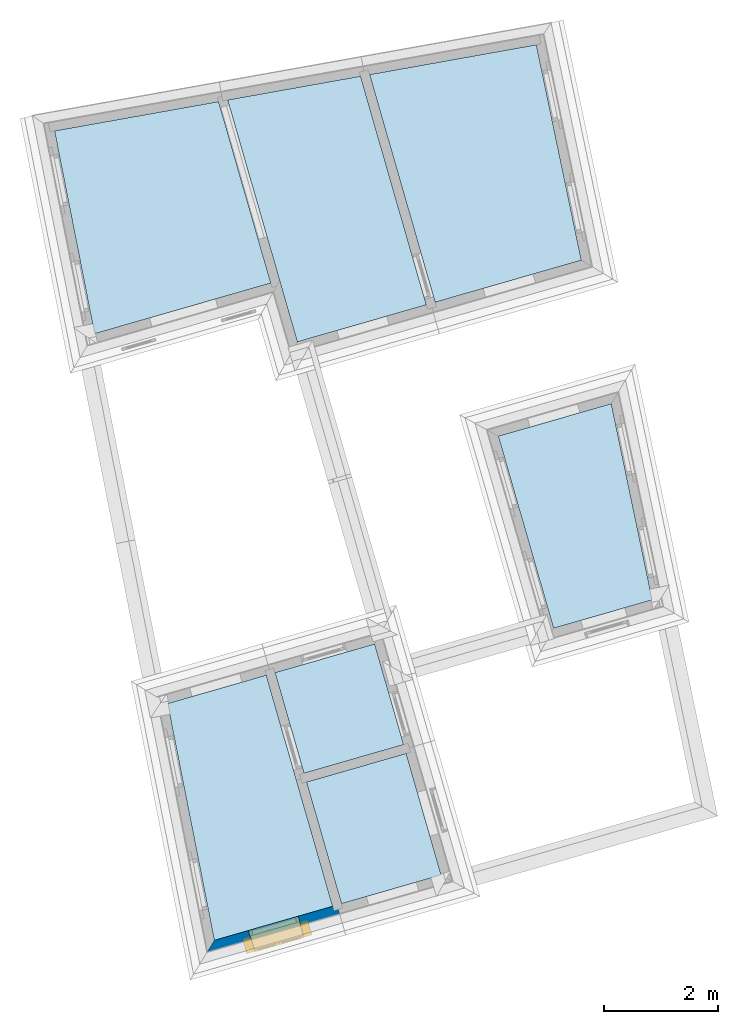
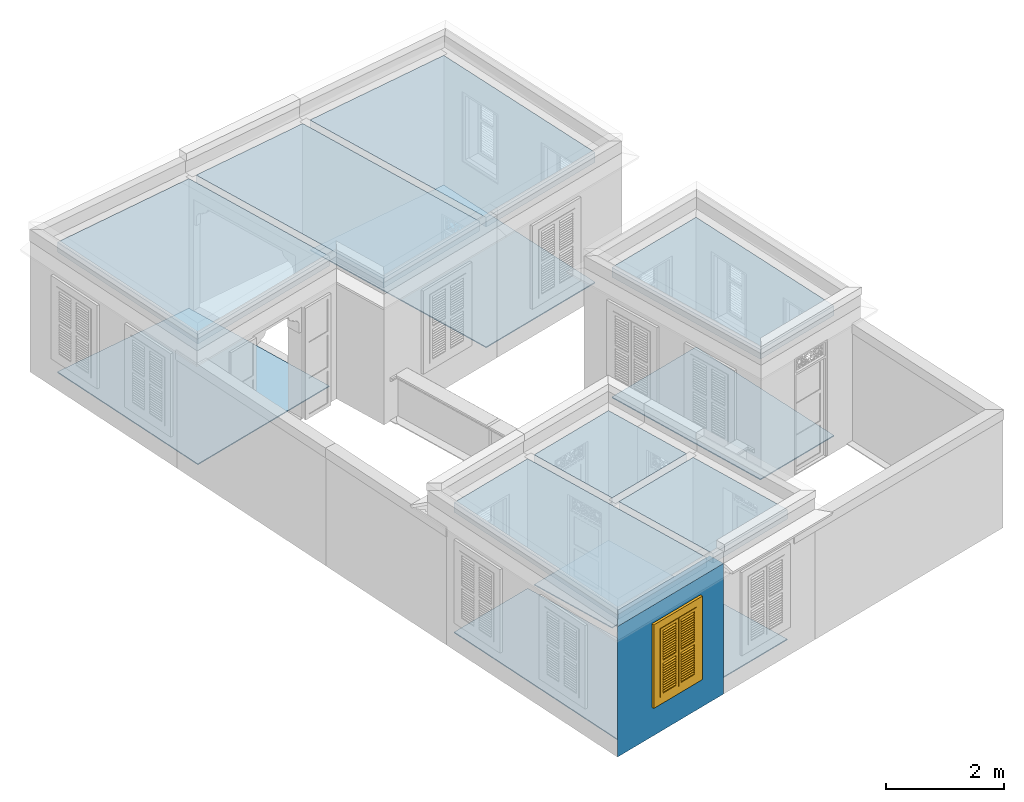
# One storey, part 1 of 22: 13 slabs, 1 wall, 1 window, 1 opening.
"""IFC4 building model written with IfcOpenShell, lengths in metres."""

from ifc_helpers import new_model, si_unit, frame, origin, origin_with_axes, place, context, subcontext, project, spatial, polyline, outline, extrude, faceted_brep, source, transform, mapped, material, layer, layer_set, layer_usage, type_object, type_shapes, element, fill, save


model = new_model("IFC4")

# Units and contexts
model_context = context("Model", 3, world=origin_with_axes())
body_context = subcontext(model_context, "Body", "Model", "MODEL_VIEW")
ifc_project = project(units=[si_unit("PLANEANGLEUNIT", "RADIAN"), si_unit("MASSUNIT", "GRAM", prefix="KILO"), si_unit("FORCEUNIT", "NEWTON", prefix="KILO"), si_unit("LENGTHUNIT", "METRE"), si_unit("AREAUNIT", "SQUARE_METRE"), si_unit("VOLUMEUNIT", "CUBIC_METRE")], contexts=[model_context, model_context])

# Site, building, storey
site_placement = place(None, origin_with_axes())
site = spatial("IfcSite", under=ifc_project, at=site_placement, Name="Site plot-9", CompositionType="ELEMENT")
building_placement = place(None, origin_with_axes())
building = spatial("IfcBuilding", under=site, at=building_placement, Name="Building plot-9", CompositionType="ELEMENT")
storey_placement = place(None, frame((0.0, 0.0, 2.85), z_axis=(0.0, 0.0, 1.0), x_axis=(1.0, 0.0, 0.0)))
storey = spatial("IfcBuildingStorey", under=building, at=storey_placement, Name="plot-9 1", CompositionType="ELEMENT", Elevation=2.85)

# Slabs
slab_1_placement = place(storey_placement, frame((-20.161712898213, -6.68409623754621, 2.5)))
element("IfcSlab", 1, at=slab_1_placement, inside=storey, Name="My Slab", ObjectType="Slab", PredefinedType="FLOOR", context=body_context, shape_type="SweptSolid", body=[
    extrude(outline(polyline([(0.0, 0.0), (2.07081325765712, 0.595861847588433), (0.908731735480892, 4.63849602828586), (-0.817634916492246, 4.14174625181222), (0.0, 0.0)])), origin_with_axes(), (0.0, 0.0, 1.0), 0.2),
])
slab_2_placement = place(storey_placement, frame((-20.161712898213, -6.68409623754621, 0.0)))
element("IfcSlab", 2, at=slab_2_placement, inside=storey, Name="My Slab", ObjectType="Slab", PredefinedType="FLOOR", context=body_context, shape_type="SweptSolid", body=[
    extrude(outline(polyline([(0.0, 0.0), (2.07081325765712, 0.595861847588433), (0.908731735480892, 4.63849602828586), (-0.817634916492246, 4.14174625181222), (0.0, 0.0)])), origin_with_axes(), (0.0, 0.0, 1.0), 0.02),
])
slab_3_placement = place(storey_placement, frame((-18.5929798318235, -3.76245824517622, 2.5)))
element("IfcSlab", 3, at=slab_3_placement, inside=storey, Name="My Slab", ObjectType="Slab", PredefinedType="FLOOR", context=body_context, shape_type="SweptSolid", body=[
    extrude(outline(polyline([(0.0, 0.0), (1.74305043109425, 0.501550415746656), (1.23634445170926, 2.26251810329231), (-0.506240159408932, 1.7611017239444), (0.0, 0.0)])), origin_with_axes(), (0.0, 0.0, 1.0), 0.2),
])
slab_4_placement = place(storey_placement, frame((-18.5929798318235, -3.76245824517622, 0.0)))
element("IfcSlab", 4, at=slab_4_placement, inside=storey, Name="My Slab", ObjectType="Slab", PredefinedType="FLOOR", context=body_context, shape_type="SweptSolid", body=[
    extrude(outline(polyline([(0.0, 0.0), (1.74305043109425, 0.501550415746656), (1.23634445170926, 2.26251810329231), (-0.506240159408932, 1.7611017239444), (0.0, 0.0)])), origin_with_axes(), (0.0, 0.0, 1.0), 0.02),
])
slab_5_placement = place(storey_placement, frame((-13.2171707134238, 2.70372651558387, 2.5)))
element("IfcSlab", 5, at=slab_5_placement, inside=storey, Name="My Slab", ObjectType="Slab", PredefinedType="FLOOR", context=body_context, shape_type="SweptSolid", body=[
    extrude(outline(polyline([(0.0, 0.0), (-1.97686501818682, -0.568828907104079), (-1.00984457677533, -3.92953870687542), (0.716715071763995, -3.43273339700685), (0.0, 0.0)])), origin_with_axes(), (0.0, 0.0, 1.0), 0.2),
])
slab_6_placement = place(storey_placement, frame((-13.2171707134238, 2.70372651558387, 0.0)))
element("IfcSlab", 6, at=slab_6_placement, inside=storey, Name="My Slab", ObjectType="Slab", PredefinedType="FLOOR", context=body_context, shape_type="SweptSolid", body=[
    extrude(outline(polyline([(0.0, 0.0), (-1.97686501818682, -0.568828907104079), (-1.00984457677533, -3.92953870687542), (0.716715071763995, -3.43273339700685), (0.0, 0.0)])), origin_with_axes(), (0.0, 0.0, 1.0), 0.02),
])
slab_7_placement = place(storey_placement, frame((-14.5279245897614, 8.98163078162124, 2.5)))
element("IfcSlab", 7, at=slab_7_placement, inside=storey, Name="My Slab", ObjectType="Slab", PredefinedType="FLOOR", context=body_context, shape_type="SweptSolid", body=[
    extrude(outline(polyline([(0.0, 0.0), (-2.91770092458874, -0.521597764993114), (-1.77141169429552, -4.50532477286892), (0.786959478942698, -3.76917158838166), (0.0, 0.0)])), origin_with_axes(), (0.0, 0.0, 1.0), 0.2),
])
slab_8_placement = place(storey_placement, frame((-14.5279245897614, 8.98163078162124, 0.0)))
element("IfcSlab", 8, at=slab_8_placement, inside=storey, Name="My Slab", ObjectType="Slab", PredefinedType="FLOOR", context=body_context, shape_type="SweptSolid", body=[
    extrude(outline(polyline([(0.0, 0.0), (-2.91770092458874, -0.521597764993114), (-1.77141169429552, -4.50532477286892), (0.786959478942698, -3.76917158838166), (0.0, 0.0)])), origin_with_axes(), (0.0, 0.0, 1.0), 0.02),
])
slab_9_placement = place(storey_placement, frame((-17.6039721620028, 8.43172536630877, 2.5)))
element("IfcSlab", 9, at=slab_9_placement, inside=storey, Name="My Slab", ObjectType="Slab", PredefinedType="FLOOR", context=body_context, shape_type="SweptSolid", body=[
    extrude(outline(polyline([(0.0, 0.0), (-2.32437231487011, -0.415528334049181), (-1.10618726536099, -4.64911664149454), (1.15087471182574, -3.99966304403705), (0.0, 0.0)])), origin_with_axes(), (0.0, 0.0, 1.0), 0.2),
])
slab_10_placement = place(storey_placement, frame((-22.9568620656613, 7.47478855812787, 2.5)))
element("IfcSlab", 10, at=slab_10_placement, inside=storey, Name="My Slab", ObjectType="Slab", PredefinedType="FLOOR", context=body_context, shape_type="SweptSolid", body=[
    extrude(outline(polyline([(0.0, 0.0), (0.700565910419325, -3.54873082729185), (3.78391934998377, -2.66247137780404), (2.87017094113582, 0.513100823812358), (0.0, 0.0)])), origin_with_axes(), (0.0, 0.0, 1.0), 0.2),
])
slab_11_placement = place(storey_placement, frame((-22.9568620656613, 7.47478855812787, 0.0)))
element("IfcSlab", 11, at=slab_11_placement, inside=storey, Name="My Slab", ObjectType="Slab", PredefinedType="FLOOR", context=body_context, shape_type="SweptSolid", body=[
    extrude(outline(polyline([(0.0, 0.0), (0.700565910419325, -3.54873082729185), (3.78391934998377, -2.66247137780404), (2.87017094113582, 0.513100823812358), (0.0, 0.0)])), origin_with_axes(), (0.0, 0.0, 1.0), 0.02),
])
slab_12_placement = place(storey_placement, frame((-18.5487768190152, -3.91623111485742, 2.5)))
element("IfcSlab", 12, at=slab_12_placement, inside=storey, Name="My Slab", ObjectType="Slab", PredefinedType="FLOOR", context=body_context, shape_type="SweptSolid", body=[
    extrude(outline(polyline([(0.0, 0.0), (0.611638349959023, -2.12775958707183), (2.35529225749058, -1.62603552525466), (1.74309110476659, 0.50156211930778), (0.0, 0.0)])), origin_with_axes(), (0.0, 0.0, 1.0), 0.2),
])
slab_13_placement = place(storey_placement, frame((-18.5487768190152, -3.91623111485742, 0.0)))
element("IfcSlab", 13, at=slab_13_placement, inside=storey, Name="My Slab", ObjectType="Slab", PredefinedType="FLOOR", context=body_context, shape_type="SweptSolid", body=[
    extrude(outline(polyline([(0.0, 0.0), (0.611638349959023, -2.12775958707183), (2.35529225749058, -1.62603552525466), (1.74309110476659, 0.50156211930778), (0.0, 0.0)])), origin_with_axes(), (0.0, 0.0, 1.0), 0.02),
])

# Wall, opening, window
ifc_material = material(Name="Masonry")
ifc_layer = layer(ifc_material, 0.33, ventilated=False)
ifc_layer_set = layer_set([ifc_layer], Name="exterior_0.08_0.25")
ifc_layer_usage = layer_usage(ifc_layer_set, "AXIS2", "POSITIVE", -0.25)
wall_type = type_object("IfcWallType", Name="exterior_0.08_0.25", PredefinedType="SOLIDWALL", material=ifc_layer_set)
wall_placement = place(storey_placement, frame((-20.223323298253, -6.7850701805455, 0.0), z_axis=(0.0, 0.0, 1.0), x_axis=(0.961007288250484, 0.276523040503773, 0.0)))
wall = element("IfcWall", 14, at=wall_placement, inside=storey, type_object=wall_type, material=ifc_layer_usage, Name="exterior", context=body_context, shape_type="SweptSolid", body=[
    extrude(outline(polyline([(0.0871296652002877, 0.079999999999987), (-0.272280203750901, -0.250000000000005), (2.32194466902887, -0.25), (2.32194466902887, 0.0800000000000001), (0.0871296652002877, 0.079999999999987)])), origin_with_axes(), (0.0, 0.0, 1.0), 2.7),
])
opening_placement = place(wall_placement, frame((0.705972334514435, 0.0, 0.75)))
opening = element("IfcOpeningElement", 15, at=opening_placement, cuts=wall, Name="My Opening", ObjectType="Opening", context=body_context, shape_type="SweptSolid", body=[
    extrude(outline(polyline([(0.0, -0.270000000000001), (0.909999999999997, -0.27), (0.909999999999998, 1.1), (6.66133814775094e-16, 1.1), (0.0, -0.270000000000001)])), origin_with_axes(), (0.0, 0.0, 1.0), 1.445),
])
window_type = type_object("IfcWindowType", Name="shuttered_shorter", PartitioningType="DOUBLE_PANEL_HORIZONTAL", PredefinedType="NOTDEFINED")
shared_shape = source(origin(), body_context, "Body", "Brep", [
    faceted_brep([(0.393, 0.0, 0.622), (0.074, 0.0, 0.622), (0.074, 0.0, 0.632), (0.393, 0.0, 0.632), (0.074, -0.04, 0.592), (0.393, -0.04, 0.592), (0.393, -0.04, 0.582), (0.074, -0.04, 0.582), (0.517, 0.0, 0.682), (0.836, 0.0, 0.682), (0.836, 0.0, 0.672), (0.517, 0.0, 0.672), (0.517, -0.04, 0.642), (0.836, -0.04, 0.642), (0.836, -0.04, 0.632), (0.517, -0.04, 0.632), (0.517, 0.0, 0.632), (0.836, 0.0, 0.632), (0.836, 0.0, 0.622), (0.517, 0.0, 0.622), (0.517, -0.04, 0.592), (0.836, -0.04, 0.592), (0.836, -0.04, 0.582), (0.517, -0.04, 0.582), (0.517, 0.0, 0.232), (0.836, 0.0, 0.232), (0.836, 0.0, 0.222), (0.517, 0.0, 0.222), (0.517, -0.04, 0.192), (0.836, -0.04, 0.192), (0.836, -0.04, 0.182), (0.517, -0.04, 0.182), (0.517, 0.0, 0.532), (0.836, 0.0, 0.532), (0.836, 0.0, 0.522), (0.517, 0.0, 0.522), (0.517, -0.04, 0.492), (0.836, -0.04, 0.492), (0.836, -0.04, 0.482), (0.517, -0.04, 0.482), (0.517, 0.0, 0.482), (0.836, 0.0, 0.482), (0.836, 0.0, 0.472), (0.517, 0.0, 0.472), (0.517, -0.04, 0.442), (0.836, -0.04, 0.442), (0.836, -0.04, 0.432), (0.517, -0.04, 0.432), (0.517, 0.0, 0.582), (0.836, 0.0, 0.582), (0.836, 0.0, 0.572), (0.517, 0.0, 0.572), (0.517, -0.04, 0.542), (0.836, -0.04, 0.542), (0.836, -0.04, 0.532), (0.517, -0.04, 0.532), (0.517, 0.0, 0.182), (0.836, 0.0, 0.182), (0.836, 0.0, 0.172), (0.517, 0.0, 0.172), (0.517, -0.04, 0.142), (0.836, -0.04, 0.142), (0.836, -0.04, 0.132), (0.517, -0.04, 0.132), (0.517, 0.0, 0.382), (0.836, 0.0, 0.382), (0.836, 0.0, 0.372), (0.517, 0.0, 0.372), (0.517, -0.04, 0.342), (0.836, -0.04, 0.342), (0.836, -0.04, 0.332), (0.517, -0.04, 0.332), (0.517, 0.0, 0.432), (0.836, 0.0, 0.432), (0.836, 0.0, 0.422), (0.517, 0.0, 0.422), (0.517, -0.04, 0.392), (0.836, -0.04, 0.392), (0.836, -0.04, 0.382), (0.517, -0.04, 0.382), (0.517, 0.0, 0.132), (0.836, 0.0, 0.132), (0.836, 0.0, 0.122), (0.517, 0.0, 0.122), (0.517, -0.04, 0.092), (0.836, -0.04, 0.092), (0.836, -0.04, 0.082), (0.517, -0.04, 0.082), (0.517, 0.0, 0.282), (0.836, 0.0, 0.282), (0.836, 0.0, 0.272), (0.517, 0.0, 0.272), (0.517, -0.04, 0.242), (0.836, -0.04, 0.242), (0.836, -0.04, 0.232), (0.517, -0.04, 0.232), (0.517, 0.0, 0.332), (0.836, 0.0, 0.332), (0.836, 0.0, 0.322), (0.517, 0.0, 0.322), (0.517, -0.04, 0.292), (0.836, -0.04, 0.292), (0.836, -0.04, 0.282), (0.517, -0.04, 0.282), (0.517, 0.0, 1.362667), (0.836, 0.0, 1.362667), (0.836, 0.0, 1.352667), (0.517, 0.0, 1.352667), (0.517, -0.04, 1.322667), (0.836, -0.04, 1.322667), (0.836, -0.04, 1.312667), (0.517, -0.04, 1.312667), (0.517, 0.0, 1.312667), (0.836, 0.0, 1.312667), (0.836, 0.0, 1.302667), (0.517, 0.0, 1.302667), (0.517, -0.04, 1.272667), (0.836, -0.04, 1.272667), (0.836, -0.04, 1.262667), (0.517, -0.04, 1.262667), (0.517, 0.0, 0.912667), (0.836, 0.0, 0.912667), (0.836, 0.0, 0.902667), (0.517, 0.0, 0.902667), (0.517, -0.04, 0.872667), (0.836, -0.04, 0.872667), (0.836, -0.04, 0.862667), (0.517, -0.04, 0.862667), (0.517, 0.0, 1.212667), (0.836, 0.0, 1.212667), (0.836, 0.0, 1.202667), (0.517, 0.0, 1.202667), (0.517, -0.04, 1.172667), (0.836, -0.04, 1.172667), (0.836, -0.04, 1.162667), (0.517, -0.04, 1.162667), (0.517, 0.0, 1.162667), (0.836, 0.0, 1.162667), (0.836, 0.0, 1.152667), (0.517, 0.0, 1.152667), (0.517, -0.04, 1.122667), (0.836, -0.04, 1.122667), (0.836, -0.04, 1.112667), (0.517, -0.04, 1.112667), (0.517, 0.0, 1.262667), (0.836, 0.0, 1.262667), (0.836, 0.0, 1.252667), (0.517, 0.0, 1.252667), (0.517, -0.04, 1.222667), (0.836, -0.04, 1.222667), (0.836, -0.04, 1.212667), (0.517, -0.04, 1.212667), (0.517, 0.0, 0.862667), (0.836, 0.0, 0.862667), (0.836, 0.0, 0.852667), (0.517, 0.0, 0.852667), (0.517, -0.04, 0.822667), (0.836, -0.04, 0.822667), (0.836, -0.04, 0.812667), (0.517, -0.04, 0.812667), (0.517, 0.0, 1.062667), (0.836, 0.0, 1.062667), (0.836, 0.0, 1.052667), (0.517, 0.0, 1.052667), (0.517, -0.04, 1.022667), (0.836, -0.04, 1.022667), (0.836, -0.04, 1.012667), (0.517, -0.04, 1.012667), (0.517, 0.0, 1.112667), (0.836, 0.0, 1.112667), (0.836, 0.0, 1.102667), (0.517, 0.0, 1.102667), (0.517, -0.04, 1.072667), (0.836, -0.04, 1.072667), (0.836, -0.04, 1.062667), (0.517, -0.04, 1.062667), (0.517, 0.0, 0.812667), (0.836, 0.0, 0.812667), (0.836, 0.0, 0.802667), (0.517, 0.0, 0.802667), (0.517, -0.04, 0.772667), (0.836, -0.04, 0.772667), (0.836, -0.04, 0.762667), (0.517, -0.04, 0.762667), (0.517, 0.0, 0.962667), (0.836, 0.0, 0.962667), (0.836, 0.0, 0.952667), (0.517, 0.0, 0.952667), (0.517, -0.04, 0.922667), (0.836, -0.04, 0.922667), (0.836, -0.04, 0.912667), (0.517, -0.04, 0.912667), (0.517, 0.0, 1.012667), (0.836, 0.0, 1.012667), (0.836, 0.0, 1.002667), (0.517, 0.0, 1.002667), (0.517, -0.04, 0.972667), (0.836, -0.04, 0.972667), (0.836, -0.04, 0.962667), (0.517, -0.04, 0.962667), (0.074, 0.0, 0.682), (0.393, 0.0, 0.682), (0.393, 0.0, 0.672), (0.074, 0.0, 0.672), (0.074, -0.04, 0.642), (0.393, -0.04, 0.642), (0.393, -0.04, 0.632), (0.074, -0.04, 0.632), (0.074, 0.0, 0.232), (0.393, 0.0, 0.232), (0.393, 0.0, 0.222), (0.074, 0.0, 0.222), (0.074, -0.04, 0.192), (0.393, -0.04, 0.192), (0.393, -0.04, 0.182), (0.074, -0.04, 0.182), (0.074, 0.0, 0.532), (0.393, 0.0, 0.532), (0.393, 0.0, 0.522), (0.074, 0.0, 0.522), (0.074, -0.04, 0.492), (0.393, -0.04, 0.492), (0.393, -0.04, 0.482), (0.074, -0.04, 0.482), (0.074, 0.0, 0.482), (0.393, 0.0, 0.482), (0.393, 0.0, 0.472), (0.074, 0.0, 0.472), (0.074, -0.04, 0.442), (0.393, -0.04, 0.442), (0.393, -0.04, 0.432), (0.074, -0.04, 0.432), (0.074, 0.0, 0.582), (0.393, 0.0, 0.582), (0.393, 0.0, 0.572), (0.074, 0.0, 0.572), (0.074, -0.04, 0.542), (0.393, -0.04, 0.542), (0.393, -0.04, 0.532), (0.074, -0.04, 0.532), (0.074, 0.0, 0.182), (0.393, 0.0, 0.182), (0.393, 0.0, 0.172), (0.074, 0.0, 0.172), (0.074, -0.04, 0.142), (0.393, -0.04, 0.142), (0.393, -0.04, 0.132), (0.074, -0.04, 0.132), (0.074, 0.0, 0.382), (0.393, 0.0, 0.382), (0.393, 0.0, 0.372), (0.074, 0.0, 0.372), (0.074, -0.04, 0.342), (0.393, -0.04, 0.342), (0.393, -0.04, 0.332), (0.074, -0.04, 0.332), (0.074, 0.0, 0.432), (0.393, 0.0, 0.432), (0.393, 0.0, 0.422), (0.074, 0.0, 0.422), (0.074, -0.04, 0.392), (0.393, -0.04, 0.392), (0.393, -0.04, 0.382), (0.074, -0.04, 0.382), (0.074, 0.0, 0.132), (0.393, 0.0, 0.132), (0.393, 0.0, 0.122), (0.074, 0.0, 0.122), (0.074, -0.04, 0.092), (0.393, -0.04, 0.092), (0.393, -0.04, 0.082), (0.074, -0.04, 0.082), (0.074, 0.0, 0.282), (0.393, 0.0, 0.282), (0.393, 0.0, 0.272), (0.074, 0.0, 0.272), (0.074, -0.04, 0.242), (0.393, -0.04, 0.242), (0.393, -0.04, 0.232), (0.074, -0.04, 0.232), (0.074, 0.0, 0.332), (0.393, 0.0, 0.332), (0.393, 0.0, 0.322), (0.074, 0.0, 0.322), (0.074, -0.04, 0.292), (0.393, -0.04, 0.292), (0.393, -0.04, 0.282), (0.074, -0.04, 0.282), (0.074, 0.0, 1.362667), (0.393, 0.0, 1.362667), (0.393, 0.0, 1.352667), (0.074, 0.0, 1.352667), (0.074, -0.04, 1.322667), (0.393, -0.04, 1.322667), (0.393, -0.04, 1.312667), (0.074, -0.04, 1.312667), (0.074, 0.0, 1.312667), (0.393, 0.0, 1.312667), (0.393, 0.0, 1.302667), (0.074, 0.0, 1.302667), (0.074, -0.04, 1.272667), (0.393, -0.04, 1.272667), (0.393, -0.04, 1.262667), (0.074, -0.04, 1.262667), (0.074, 0.0, 0.912667), (0.393, 0.0, 0.912667), (0.393, 0.0, 0.902667), (0.074, 0.0, 0.902667), (0.074, -0.04, 0.872667), (0.393, -0.04, 0.872667), (0.393, -0.04, 0.862667), (0.074, -0.04, 0.862667), (0.074, 0.0, 1.212667), (0.393, 0.0, 1.212667), (0.393, 0.0, 1.202667), (0.074, 0.0, 1.202667), (0.074, -0.04, 1.172667), (0.393, -0.04, 1.172667), (0.393, -0.04, 1.162667), (0.074, -0.04, 1.162667), (0.074, 0.0, 1.162667), (0.393, 0.0, 1.162667), (0.393, 0.0, 1.152667), (0.074, 0.0, 1.152667), (0.074, -0.04, 1.122667), (0.393, -0.04, 1.122667), (0.393, -0.04, 1.112667), (0.074, -0.04, 1.112667), (0.074, 0.0, 1.262667), (0.393, 0.0, 1.262667), (0.393, 0.0, 1.252667), (0.074, 0.0, 1.252667), (0.074, -0.04, 1.222667), (0.393, -0.04, 1.222667), (0.393, -0.04, 1.212667), (0.074, -0.04, 1.212667), (0.074, 0.0, 0.862667), (0.393, 0.0, 0.862667), (0.393, 0.0, 0.852667), (0.074, 0.0, 0.852667), (0.074, -0.04, 0.822667), (0.393, -0.04, 0.822667), (0.393, -0.04, 0.812667), (0.074, -0.04, 0.812667), (0.074, 0.0, 1.062667), (0.393, 0.0, 1.062667), (0.393, 0.0, 1.052667), (0.074, 0.0, 1.052667), (0.074, -0.04, 1.022667), (0.393, -0.04, 1.022667), (0.393, -0.04, 1.012667), (0.074, -0.04, 1.012667), (0.074, 0.0, 1.112667), (0.393, 0.0, 1.112667), (0.393, 0.0, 1.102667), (0.074, 0.0, 1.102667), (0.074, -0.04, 1.072667), (0.393, -0.04, 1.072667), (0.393, -0.04, 1.062667), (0.074, -0.04, 1.062667), (0.074, 0.0, 0.812667), (0.393, 0.0, 0.812667), (0.393, 0.0, 0.802667), (0.074, 0.0, 0.802667), (0.074, -0.04, 0.772667), (0.393, -0.04, 0.772667), (0.393, -0.04, 0.762667), (0.074, -0.04, 0.762667), (0.074, 0.0, 0.962667), (0.393, 0.0, 0.962667), (0.393, 0.0, 0.952667), (0.074, 0.0, 0.952667), (0.074, -0.04, 0.922667), (0.393, -0.04, 0.922667), (0.393, -0.04, 0.912667), (0.074, -0.04, 0.912667), (0.074, 0.0, 1.012667), (0.393, 0.0, 1.012667), (0.393, 0.0, 1.002667), (0.074, 0.0, 1.002667), (0.074, -0.04, 0.972667), (0.393, -0.04, 0.972667), (0.393, -0.04, 0.962667), (0.074, -0.04, 0.962667), (0.517, -0.04, 0.072), (0.457, -0.04, 0.012), (0.896, -0.04, 0.012), (0.836, -0.04, 0.072), (0.457, -0.04, 0.692667), (0.517, -0.04, 0.692667), (0.457, 0.0, 0.012), (0.896, 0.0, 0.012), (0.836, -0.04, 0.692667), (0.896, -0.04, 0.692667), (0.836, 0.0, 0.072), (0.517, 0.0, 0.072), (0.457, 0.0, 0.692667), (0.517, 0.0, 0.692667), (0.517, -0.04, 0.752666), (0.457, -0.04, 0.752666), (0.896, 0.0, 0.692667), (0.836, 0.0, 0.692667), (0.836, -0.04, 0.752666), (0.896, -0.04, 0.752666), (0.457, 0.0, 0.752666), (0.457, -0.04, 1.433333), (0.517, -0.04, 1.373333), (0.896, 0.0, 0.752666), (0.836, -0.04, 1.373333), (0.896, -0.04, 1.433333), (0.457, 0.0, 1.433333), (0.517, 0.0, 0.752666), (0.836, 0.0, 0.752666), (0.517, 0.0, 1.373333), (0.896, 0.0, 1.433333), (0.836, 0.0, 1.373333), (0.074, -0.04, 0.072), (0.014, -0.04, 0.012), (0.453, -0.04, 0.012), (0.393, -0.04, 0.072), (0.014, -0.04, 0.692667), (0.074, -0.04, 0.692667), (0.014, 0.0, 0.012), (0.453, 0.0, 0.012), (0.393, -0.04, 0.692667), (0.453, -0.04, 0.692667), (0.393, 0.0, 0.072), (0.074, 0.0, 0.072), (0.014, 0.0, 0.692667), (0.074, 0.0, 0.692667), (0.074, -0.04, 0.752666), (0.014, -0.04, 0.752666), (0.453, 0.0, 0.692667), (0.393, 0.0, 0.692667), (0.393, -0.04, 0.752666), (0.453, -0.04, 0.752666), (0.014, 0.0, 0.752666), (0.014, -0.04, 1.433333), (0.074, -0.04, 1.373333), (0.453, 0.0, 0.752666), (0.393, -0.04, 1.373333), (0.453, -0.04, 1.433333), (0.014, 0.0, 1.433333), (0.074, 0.0, 0.752666), (0.393, 0.0, 0.752666), (0.074, 0.0, 1.373333), (0.453, 0.0, 1.433333), (0.393, 0.0, 1.373333), (0.0, 0.33, 1.445), (0.91, 0.33, 1.445), (0.85, 0.33, 1.385), (0.06, 0.33, 1.385), (0.91, 0.25, 1.445), (0.0, 0.25, 1.445), (0.91, 0.25, 1.445), (0.85, 0.33, 0.06), (0.91, 0.33, 0.0), (0.85, 0.25, 1.385), (0.06, 0.25, 1.385), (0.0, 0.33, 0.0), (0.06, 0.33, 0.06), (0.0, 0.25, 0.0), (0.91, 0.25, 0.0), (0.85, 0.25, 0.06), (0.06, 0.25, 0.06), (1.05, 0.25, 1.585), (-0.14, 0.25, 1.585), (-0.14, -0.03, 1.585), (1.05, -0.03, 1.585), (0.9, -0.03, 1.435), (0.01, -0.03, 1.435), (0.01, 0.25, 1.435), (0.9, 0.25, 1.435), (0.9, 0.25, 0.01), (0.9, -0.03, 0.01), (1.05, -0.03, -0.14), (1.05, 0.25, -0.14), (0.01, -0.03, 0.01), (0.01, 0.25, 0.01), (-0.14, -0.03, -0.14), (-0.14, 0.25, -0.14)], [[[0, 1, 2, 3]], [[4, 5, 3, 2]], [[5, 6, 0, 3]], [[1, 0, 6, 7]], [[2, 1, 7, 4]], [[5, 4, 7, 6]], [[8, 9, 10, 11]], [[12, 13, 9, 8]], [[13, 14, 10, 9]], [[14, 15, 11, 10]], [[15, 12, 8, 11]], [[13, 12, 15, 14]], [[16, 17, 18, 19]], [[20, 21, 17, 16]], [[21, 22, 18, 17]], [[22, 23, 19, 18]], [[23, 20, 16, 19]], [[21, 20, 23, 22]], [[24, 25, 26, 27]], [[28, 29, 25, 24]], [[29, 30, 26, 25]], [[30, 31, 27, 26]], [[31, 28, 24, 27]], [[29, 28, 31, 30]], [[32, 33, 34, 35]], [[36, 37, 33, 32]], [[37, 38, 34, 33]], [[38, 39, 35, 34]], [[39, 36, 32, 35]], [[37, 36, 39, 38]], [[40, 41, 42, 43]], [[44, 45, 41, 40]], [[45, 46, 42, 41]], [[46, 47, 43, 42]], [[47, 44, 40, 43]], [[45, 44, 47, 46]], [[48, 49, 50, 51]], [[52, 53, 49, 48]], [[53, 54, 50, 49]], [[54, 55, 51, 50]], [[55, 52, 48, 51]], [[53, 52, 55, 54]], [[56, 57, 58, 59]], [[60, 61, 57, 56]], [[61, 62, 58, 57]], [[62, 63, 59, 58]], [[63, 60, 56, 59]], [[61, 60, 63, 62]], [[64, 65, 66, 67]], [[68, 69, 65, 64]], [[69, 70, 66, 65]], [[70, 71, 67, 66]], [[71, 68, 64, 67]], [[69, 68, 71, 70]], [[72, 73, 74, 75]], [[76, 77, 73, 72]], [[77, 78, 74, 73]], [[78, 79, 75, 74]], [[79, 76, 72, 75]], [[77, 76, 79, 78]], [[80, 81, 82, 83]], [[84, 85, 81, 80]], [[85, 86, 82, 81]], [[86, 87, 83, 82]], [[87, 84, 80, 83]], [[85, 84, 87, 86]], [[88, 89, 90, 91]], [[92, 93, 89, 88]], [[93, 94, 90, 89]], [[94, 95, 91, 90]], [[95, 92, 88, 91]], [[93, 92, 95, 94]], [[96, 97, 98, 99]], [[100, 101, 97, 96]], [[101, 102, 98, 97]], [[102, 103, 99, 98]], [[103, 100, 96, 99]], [[101, 100, 103, 102]], [[104, 105, 106, 107]], [[108, 109, 105, 104]], [[109, 110, 106, 105]], [[110, 111, 107, 106]], [[111, 108, 104, 107]], [[109, 108, 111, 110]], [[112, 113, 114, 115]], [[116, 117, 113, 112]], [[117, 118, 114, 113]], [[118, 119, 115, 114]], [[119, 116, 112, 115]], [[117, 116, 119, 118]], [[120, 121, 122, 123]], [[124, 125, 121, 120]], [[125, 126, 122, 121]], [[126, 127, 123, 122]], [[127, 124, 120, 123]], [[125, 124, 127, 126]], [[128, 129, 130, 131]], [[132, 133, 129, 128]], [[133, 134, 130, 129]], [[134, 135, 131, 130]], [[135, 132, 128, 131]], [[133, 132, 135, 134]], [[136, 137, 138, 139]], [[140, 141, 137, 136]], [[141, 142, 138, 137]], [[142, 143, 139, 138]], [[139, 143, 140, 136]], [[141, 140, 143, 142]], [[144, 145, 146, 147]], [[148, 149, 145, 144]], [[149, 150, 146, 145]], [[150, 151, 147, 146]], [[151, 148, 144, 147]], [[149, 148, 151, 150]], [[152, 153, 154, 155]], [[156, 157, 153, 152]], [[157, 158, 154, 153]], [[158, 159, 155, 154]], [[159, 156, 152, 155]], [[157, 156, 159, 158]], [[160, 161, 162, 163]], [[164, 165, 161, 160]], [[165, 166, 162, 161]], [[166, 167, 163, 162]], [[167, 164, 160, 163]], [[165, 164, 167, 166]], [[168, 169, 170, 171]], [[172, 173, 169, 168]], [[173, 174, 170, 169]], [[174, 175, 171, 170]], [[175, 172, 168, 171]], [[173, 172, 175, 174]], [[176, 177, 178, 179]], [[180, 181, 177, 176]], [[181, 182, 178, 177]], [[182, 183, 179, 178]], [[183, 180, 176, 179]], [[181, 180, 183, 182]], [[184, 185, 186, 187]], [[188, 189, 185, 184]], [[189, 190, 186, 185]], [[190, 191, 187, 186]], [[191, 188, 184, 187]], [[189, 188, 191, 190]], [[192, 193, 194, 195]], [[196, 197, 193, 192]], [[197, 198, 194, 193]], [[198, 199, 195, 194]], [[199, 196, 192, 195]], [[197, 196, 199, 198]], [[200, 201, 202, 203]], [[204, 205, 201, 200]], [[205, 206, 202, 201]], [[206, 207, 203, 202]], [[207, 204, 200, 203]], [[205, 204, 207, 206]], [[208, 209, 210, 211]], [[212, 213, 209, 208]], [[213, 214, 210, 209]], [[214, 215, 211, 210]], [[215, 212, 208, 211]], [[213, 212, 215, 214]], [[216, 217, 218, 219]], [[220, 221, 217, 216]], [[221, 222, 218, 217]], [[222, 223, 219, 218]], [[223, 220, 216, 219]], [[221, 220, 223, 222]], [[224, 225, 226, 227]], [[228, 229, 225, 224]], [[229, 230, 226, 225]], [[230, 231, 227, 226]], [[231, 228, 224, 227]], [[229, 228, 231, 230]], [[232, 233, 234, 235]], [[236, 237, 233, 232]], [[237, 238, 234, 233]], [[238, 239, 235, 234]], [[239, 236, 232, 235]], [[237, 236, 239, 238]], [[240, 241, 242, 243]], [[244, 245, 241, 240]], [[245, 246, 242, 241]], [[246, 247, 243, 242]], [[247, 244, 240, 243]], [[245, 244, 247, 246]], [[248, 249, 250, 251]], [[252, 253, 249, 248]], [[253, 254, 250, 249]], [[254, 255, 251, 250]], [[255, 252, 248, 251]], [[253, 252, 255, 254]], [[256, 257, 258, 259]], [[260, 261, 257, 256]], [[261, 262, 258, 257]], [[262, 263, 259, 258]], [[263, 260, 256, 259]], [[261, 260, 263, 262]], [[264, 265, 266, 267]], [[268, 269, 265, 264]], [[269, 270, 266, 265]], [[270, 271, 267, 266]], [[271, 268, 264, 267]], [[269, 268, 271, 270]], [[272, 273, 274, 275]], [[276, 277, 273, 272]], [[277, 278, 274, 273]], [[278, 279, 275, 274]], [[279, 276, 272, 275]], [[277, 276, 279, 278]], [[280, 281, 282, 283]], [[284, 285, 281, 280]], [[285, 286, 282, 281]], [[286, 287, 283, 282]], [[287, 284, 280, 283]], [[285, 284, 287, 286]], [[288, 289, 290, 291]], [[292, 293, 289, 288]], [[293, 294, 290, 289]], [[294, 295, 291, 290]], [[295, 292, 288, 291]], [[293, 292, 295, 294]], [[296, 297, 298, 299]], [[300, 301, 297, 296]], [[301, 302, 298, 297]], [[302, 303, 299, 298]], [[303, 300, 296, 299]], [[301, 300, 303, 302]], [[304, 305, 306, 307]], [[308, 309, 305, 304]], [[309, 310, 306, 305]], [[310, 311, 307, 306]], [[311, 308, 304, 307]], [[309, 308, 311, 310]], [[312, 313, 314, 315]], [[316, 317, 313, 312]], [[317, 318, 314, 313]], [[318, 319, 315, 314]], [[319, 316, 312, 315]], [[317, 316, 319, 318]], [[320, 321, 322, 323]], [[324, 325, 321, 320]], [[325, 326, 322, 321]], [[326, 327, 323, 322]], [[327, 324, 320, 323]], [[325, 324, 327, 326]], [[328, 329, 330, 331]], [[332, 333, 329, 328]], [[333, 334, 330, 329]], [[334, 335, 331, 330]], [[335, 332, 328, 331]], [[333, 332, 335, 334]], [[336, 337, 338, 339]], [[340, 341, 337, 336]], [[341, 342, 338, 337]], [[342, 343, 339, 338]], [[343, 340, 336, 339]], [[341, 340, 343, 342]], [[344, 345, 346, 347]], [[348, 349, 345, 344]], [[349, 350, 346, 345]], [[350, 351, 347, 346]], [[351, 348, 344, 347]], [[349, 348, 351, 350]], [[352, 353, 354, 355]], [[356, 357, 353, 352]], [[357, 358, 354, 353]], [[358, 359, 355, 354]], [[359, 356, 352, 355]], [[357, 356, 359, 358]], [[360, 361, 362, 363]], [[364, 365, 361, 360]], [[365, 366, 362, 361]], [[366, 367, 363, 362]], [[367, 364, 360, 363]], [[365, 364, 367, 366]], [[368, 369, 370, 371]], [[372, 373, 369, 368]], [[373, 374, 370, 369]], [[374, 375, 371, 370]], [[375, 372, 368, 371]], [[373, 372, 375, 374]], [[376, 377, 378, 379]], [[380, 381, 377, 376]], [[381, 382, 378, 377]], [[382, 383, 379, 378]], [[383, 380, 376, 379]], [[381, 380, 383, 382]], [[384, 385, 386, 387]], [[388, 385, 384, 389]], [[390, 391, 386, 385]], [[392, 387, 386, 393]], [[384, 387, 394, 395]], [[390, 385, 388, 396]], [[389, 384, 395, 397]], [[389, 398, 399, 388]], [[390, 395, 394, 391]], [[400, 393, 386, 391]], [[387, 392, 401, 394]], [[402, 392, 393, 403]], [[396, 388, 399, 404]], [[390, 396, 397, 395]], [[392, 389, 397, 401]], [[398, 389, 392, 402]], [[405, 399, 398, 406]], [[394, 401, 400, 391]], [[407, 403, 393, 400]], [[408, 402, 403, 409]], [[404, 399, 405, 410]], [[411, 397, 396, 404]], [[397, 411, 412, 401]], [[398, 402, 412, 411]], [[406, 398, 411, 413]], [[405, 406, 408, 409]], [[401, 412, 407, 400]], [[414, 409, 403, 407]], [[402, 408, 415, 412]], [[405, 409, 414, 410]], [[404, 410, 413, 411]], [[408, 406, 413, 415]], [[412, 415, 414, 407]], [[413, 410, 414, 415]], [[416, 417, 418, 419]], [[420, 417, 416, 421]], [[422, 423, 418, 417]], [[424, 419, 418, 425]], [[416, 419, 426, 427]], [[422, 417, 420, 428]], [[421, 416, 427, 429]], [[421, 430, 431, 420]], [[422, 427, 426, 423]], [[432, 425, 418, 423]], [[419, 424, 433, 426]], [[434, 424, 425, 435]], [[428, 420, 431, 436]], [[422, 428, 429, 427]], [[424, 421, 429, 433]], [[430, 421, 424, 434]], [[437, 431, 430, 438]], [[426, 433, 432, 423]], [[439, 435, 425, 432]], [[440, 434, 435, 441]], [[436, 431, 437, 442]], [[443, 429, 428, 436]], [[429, 443, 444, 433]], [[430, 434, 444, 443]], [[438, 430, 443, 445]], [[437, 438, 440, 441]], [[433, 444, 439, 432]], [[446, 441, 435, 439]], [[434, 440, 447, 444]], [[437, 441, 446, 442]], [[436, 442, 445, 443]], [[440, 438, 445, 447]], [[444, 447, 446, 439]], [[445, 442, 446, 447]], [[448, 449, 450, 451]], [[452, 449, 448]], [[448, 453, 454]], [[448, 454, 452]], [[455, 450, 449, 456]], [[451, 450, 457, 458]], [[459, 448, 451, 460]], [[448, 459, 461, 453]], [[454, 453, 458, 457]], [[462, 452, 454]], [[454, 457, 463]], [[454, 463, 462]], [[456, 449, 452, 462]], [[450, 455, 463, 457]], [[456, 459, 460, 455]], [[460, 451, 458, 464]], [[459, 456, 462, 461]], [[464, 458, 453, 461]], [[461, 462, 463, 464]], [[455, 460, 464, 463]], [[465, 466, 467, 468]], [[469, 470, 471, 472]], [[473, 474, 469, 472]], [[465, 468, 475, 476]], [[470, 477, 478, 471]], [[474, 473, 478, 477]], [[474, 477, 479, 475]], [[470, 467, 479, 477]], [[470, 469, 468, 467]], [[474, 475, 468, 469]], [[471, 478, 480, 466]], [[473, 472, 465, 476]], [[473, 476, 480, 478]], [[466, 465, 472, 471]], [[480, 476, 475, 479]], [[480, 479, 467, 466]]]),
])
type_shapes(window_type, [shared_shape])
window_placement = place(storey_placement, frame((-19.4702175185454, -6.84932453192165, 0.75), z_axis=(0.0, 0.0, 1.0), x_axis=(0.874516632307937, 0.251635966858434, 0.0)))
window = element("IfcWindow", 16, at=window_placement, inside=storey, type_object=window_type, Name="bedroom outside window", OverallHeight=1.445, OverallWidth=0.91, context=body_context, shape_type="MappedRepresentation", body=[
    mapped(shared_shape, transform((0.0, 0.0, 0.0), scale=1.0)),
])
fill(opening, window)

save(model, "model.ifc")
